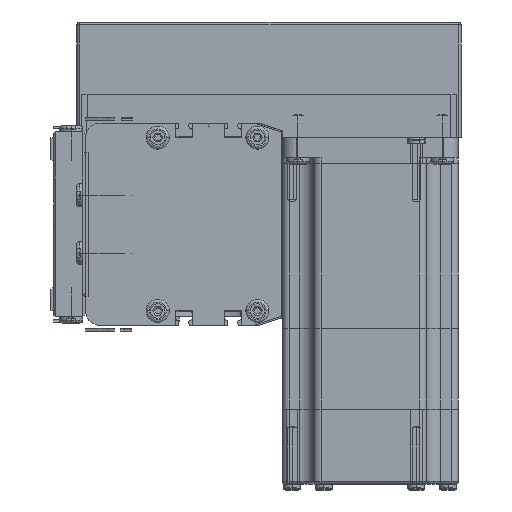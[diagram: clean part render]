
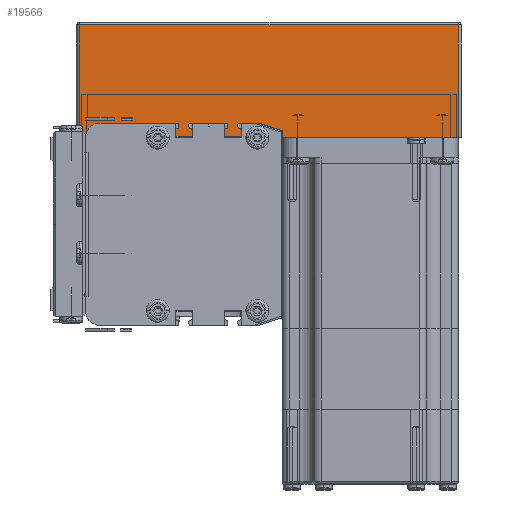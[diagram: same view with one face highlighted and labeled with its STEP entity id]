
A CAD part, left-side view. The second image highlights one B-rep face of the part: STEP entity #19566.
In plain terms, the highlighted planar face has unit normal (-1, 0, 0) as drawn and (0, 1, 0) by its records, which use the part's own axes.
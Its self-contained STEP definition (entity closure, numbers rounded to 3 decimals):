
#6226 = CARTESIAN_POINT ( 'NONE',  ( 1., 62., 0. ) ) ;
#6392 = CARTESIAN_POINT ( 'NONE',  ( 132., 62., 0. ) ) ;
#14951 = EDGE_CURVE ( 'NONE', #19228, #19823, #90472, .T. ) ;
#14957 = ORIENTED_EDGE ( 'NONE', *, *, #20003, .T. ) ;
#17205 = EDGE_CURVE ( 'NONE', #20806, #20792, #134707, .T. ) ;
#18185 = ORIENTED_EDGE ( 'NONE', *, *, #17205, .T. ) ;
#19074 = CARTESIAN_POINT ( 'NONE',  ( 1., 62., 39. ) ) ;
#19228 = VERTEX_POINT ( 'NONE', #19074 ) ;
#19515 = EDGE_LOOP ( 'NONE', ( #19776, #19774, #18185, #14957 ) ) ;
#19566 = ADVANCED_FACE ( 'NONE', ( #29112 ), #29104, .F. ) ;
#19774 = ORIENTED_EDGE ( 'NONE', *, *, #19814, .T. ) ;
#19776 = ORIENTED_EDGE ( 'NONE', *, *, #14951, .T. ) ;
#19814 = EDGE_CURVE ( 'NONE', #19823, #20806, #110236, .T. ) ;
#19823 = VERTEX_POINT ( 'NONE', #110316 ) ;
#20003 = EDGE_CURVE ( 'NONE', #20792, #19228, #114722, .T. ) ;
#20792 = VERTEX_POINT ( 'NONE', #6226 ) ;
#20806 = VERTEX_POINT ( 'NONE', #6392 ) ;
#29104 = PLANE ( 'NONE',  #29105 ) ;
#29105 = AXIS2_PLACEMENT_3D ( 'NONE', #29146, #29145, #29144 ) ;
#29112 = FACE_OUTER_BOUND ( 'NONE', #19515, .T. ) ;
#29144 = DIRECTION ( 'NONE',  ( 0., 0., -1. ) ) ;
#29145 = DIRECTION ( 'NONE',  ( 0., -1., 0. ) ) ;
#29146 = CARTESIAN_POINT ( 'NONE',  ( 0., 62., 40. ) ) ;
#90472 = LINE ( 'NONE', #90604, #90602 ) ;
#90599 = DIRECTION ( 'NONE',  ( 1., 0., 0. ) ) ;
#90602 = VECTOR ( 'NONE', #90599, 1000. ) ;
#90604 = CARTESIAN_POINT ( 'NONE',  ( 0., 62., 39. ) ) ;
#110235 = CARTESIAN_POINT ( 'NONE',  ( 132., 62., 40. ) ) ;
#110236 = LINE ( 'NONE', #110235, #110318 ) ;
#110316 = CARTESIAN_POINT ( 'NONE',  ( 132., 62., 39. ) ) ;
#110317 = DIRECTION ( 'NONE',  ( 0., 0., -1. ) ) ;
#110318 = VECTOR ( 'NONE', #110317, 1000. ) ;
#114719 = DIRECTION ( 'NONE',  ( 0., 0., 1. ) ) ;
#114720 = VECTOR ( 'NONE', #114719, 1000. ) ;
#114721 = CARTESIAN_POINT ( 'NONE',  ( 1., 62., 40. ) ) ;
#114722 = LINE ( 'NONE', #114721, #114720 ) ;
#134685 = DIRECTION ( 'NONE',  ( -1., 0., 0. ) ) ;
#134686 = VECTOR ( 'NONE', #134685, 1000. ) ;
#134707 = LINE ( 'NONE', #134720, #134686 ) ;
#134720 = CARTESIAN_POINT ( 'NONE',  ( 0., 62., 0. ) ) ;
